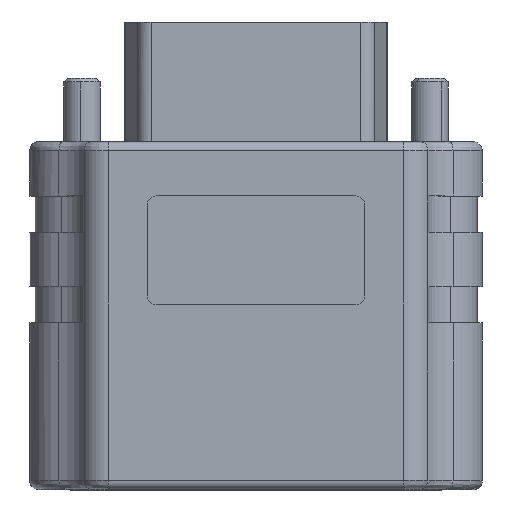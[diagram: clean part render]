
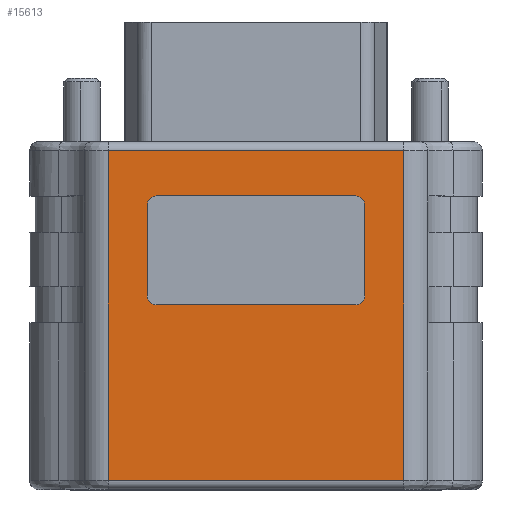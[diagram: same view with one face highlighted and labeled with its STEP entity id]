
A CAD part, top view. The second image highlights one B-rep face of the part: STEP entity #15613.
In plain terms, the highlighted planar face has unit normal (0, 0, 1) as drawn and (0, 1, 0) by its records, which use the part's own axes.
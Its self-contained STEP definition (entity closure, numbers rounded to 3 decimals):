
#38 = VERTEX_POINT ( 'NONE', #22051 ) ;
#1006 = LINE ( 'NONE', #22588, #26592 ) ;
#1810 = VECTOR ( 'NONE', #21243, 1000. ) ;
#2084 = VERTEX_POINT ( 'NONE', #32134 ) ;
#2915 = EDGE_CURVE ( 'NONE', #31202, #2084, #30771, .T. ) ;
#3042 = CARTESIAN_POINT ( 'NONE',  ( 8.15, 4.75, 0. ) ) ;
#3615 = CARTESIAN_POINT ( 'NONE',  ( -6., 4.75, 3.5 ) ) ;
#3661 = CARTESIAN_POINT ( 'NONE',  ( -5.5, 4.75, 3.5 ) ) ;
#3708 = VECTOR ( 'NONE', #12569, 1000. ) ;
#3722 = DIRECTION ( 'NONE',  ( 0., 0., -1. ) ) ;
#4386 = CARTESIAN_POINT ( 'NONE',  ( 6., 4.75, 3.5 ) ) ;
#4439 = ORIENTED_EDGE ( 'NONE', *, *, #20915, .T. ) ;
#4628 = ORIENTED_EDGE ( 'NONE', *, *, #29257, .T. ) ;
#4881 = CARTESIAN_POINT ( 'NONE',  ( -8.15, 4.75, 18.7 ) ) ;
#5003 = CARTESIAN_POINT ( 'NONE',  ( 8.15, 4.75, 0.5 ) ) ;
#5165 = FACE_BOUND ( 'NONE', #29551, .T. ) ;
#5195 = VECTOR ( 'NONE', #5562, 1000. ) ;
#5562 = DIRECTION ( 'NONE',  ( 0., 0., -1. ) ) ;
#5680 = DIRECTION ( 'NONE',  ( 0., 0., 1. ) ) ;
#6221 = ORIENTED_EDGE ( 'NONE', *, *, #7853, .T. ) ;
#6629 = VERTEX_POINT ( 'NONE', #12479 ) ;
#6707 = CARTESIAN_POINT ( 'NONE',  ( 5.5, 4.75, 8.5 ) ) ;
#6729 = VECTOR ( 'NONE', #28559, 1000. ) ;
#6767 = DIRECTION ( 'NONE',  ( 0., 0., -1. ) ) ;
#7299 = CARTESIAN_POINT ( 'NONE',  ( 8.15, 4.75, 0.5 ) ) ;
#7595 = DIRECTION ( 'NONE',  ( 0., -1., 0. ) ) ;
#7853 = EDGE_CURVE ( 'NONE', #2084, #24378, #22991, .T. ) ;
#7906 = LINE ( 'NONE', #24752, #18292 ) ;
#8040 = LINE ( 'NONE', #21722, #5195 ) ;
#8120 = CIRCLE ( 'NONE', #8692, 0.5 ) ;
#8692 = AXIS2_PLACEMENT_3D ( 'NONE', #24816, #29924, #3722 ) ;
#9589 = EDGE_CURVE ( 'NONE', #23491, #6629, #18336, .T. ) ;
#9665 = CARTESIAN_POINT ( 'NONE',  ( -6., 4.75, 8.5 ) ) ;
#9932 = LINE ( 'NONE', #20628, #6729 ) ;
#10016 = AXIS2_PLACEMENT_3D ( 'NONE', #6707, #7595, #13994 ) ;
#10268 = VERTEX_POINT ( 'NONE', #3615 ) ;
#10470 = DIRECTION ( 'NONE',  ( 0., 1., 0. ) ) ;
#10557 = CARTESIAN_POINT ( 'NONE',  ( -0.75, 4.75, 18.7 ) ) ;
#11314 = ORIENTED_EDGE ( 'NONE', *, *, #27451, .T. ) ;
#11395 = AXIS2_PLACEMENT_3D ( 'NONE', #33068, #19650, #21775 ) ;
#11954 = VERTEX_POINT ( 'NONE', #17877 ) ;
#12479 = CARTESIAN_POINT ( 'NONE',  ( -8.15, 4.75, 0.5 ) ) ;
#12569 = DIRECTION ( 'NONE',  ( 1., 0., 0. ) ) ;
#13653 = CARTESIAN_POINT ( 'NONE',  ( -5.5, 4.75, 9. ) ) ;
#13696 = ORIENTED_EDGE ( 'NONE', *, *, #32230, .T. ) ;
#13994 = DIRECTION ( 'NONE',  ( 0., 0., -1. ) ) ;
#14107 = ORIENTED_EDGE ( 'NONE', *, *, #22300, .T. ) ;
#15077 = VECTOR ( 'NONE', #33908, 1000. ) ;
#15385 = VECTOR ( 'NONE', #18000, 1000. ) ;
#15613 = ADVANCED_FACE ( 'NONE', ( #5165, #26646 ), #15862, .T. ) ;
#15862 = PLANE ( 'NONE',  #23919 ) ;
#15989 = EDGE_CURVE ( 'NONE', #10268, #38, #34078, .T. ) ;
#16279 = DIRECTION ( 'NONE',  ( 0., 0., 1. ) ) ;
#17522 = EDGE_CURVE ( 'NONE', #24378, #21963, #29358, .T. ) ;
#17877 = CARTESIAN_POINT ( 'NONE',  ( 8.15, 4.75, 18.7 ) ) ;
#18000 = DIRECTION ( 'NONE',  ( -1., 0., 0. ) ) ;
#18292 = VECTOR ( 'NONE', #16279, 1000. ) ;
#18336 = LINE ( 'NONE', #5003, #15385 ) ;
#18520 = LINE ( 'NONE', #26656, #3708 ) ;
#18730 = VERTEX_POINT ( 'NONE', #4881 ) ;
#18870 = AXIS2_PLACEMENT_3D ( 'NONE', #3661, #19639, #22461 ) ;
#19162 = ORIENTED_EDGE ( 'NONE', *, *, #26988, .T. ) ;
#19524 = ORIENTED_EDGE ( 'NONE', *, *, #9589, .T. ) ;
#19639 = DIRECTION ( 'NONE',  ( 0., -1., 0. ) ) ;
#19650 = DIRECTION ( 'NONE',  ( 0., -1., 0. ) ) ;
#20628 = CARTESIAN_POINT ( 'NONE',  ( -8.15, 4.75, 0. ) ) ;
#20671 = ORIENTED_EDGE ( 'NONE', *, *, #17522, .T. ) ;
#20915 = EDGE_CURVE ( 'NONE', #38, #33805, #18520, .T. ) ;
#21243 = DIRECTION ( 'NONE',  ( -1., 0., 0. ) ) ;
#21582 = ORIENTED_EDGE ( 'NONE', *, *, #2915, .T. ) ;
#21722 = CARTESIAN_POINT ( 'NONE',  ( -6., 4.75, 0. ) ) ;
#21775 = DIRECTION ( 'NONE',  ( 0., 0., -1. ) ) ;
#21963 = VERTEX_POINT ( 'NONE', #9665 ) ;
#22051 = CARTESIAN_POINT ( 'NONE',  ( -5.5, 4.75, 3. ) ) ;
#22300 = EDGE_CURVE ( 'NONE', #6629, #18730, #9932, .T. ) ;
#22461 = DIRECTION ( 'NONE',  ( 0., 0., -1. ) ) ;
#22588 = CARTESIAN_POINT ( 'NONE',  ( 8.15, 4.75, 0. ) ) ;
#22991 = LINE ( 'NONE', #33741, #15077 ) ;
#23491 = VERTEX_POINT ( 'NONE', #7299 ) ;
#23901 = LINE ( 'NONE', #10557, #1810 ) ;
#23919 = AXIS2_PLACEMENT_3D ( 'NONE', #3042, #10470, #5680 ) ;
#24378 = VERTEX_POINT ( 'NONE', #13653 ) ;
#24752 = CARTESIAN_POINT ( 'NONE',  ( 6., 4.75, 0. ) ) ;
#24816 = CARTESIAN_POINT ( 'NONE',  ( 5.5, 4.75, 3.5 ) ) ;
#25061 = ORIENTED_EDGE ( 'NONE', *, *, #15989, .T. ) ;
#25908 = CARTESIAN_POINT ( 'NONE',  ( 5.5, 4.75, 3. ) ) ;
#26592 = VECTOR ( 'NONE', #6767, 1000. ) ;
#26646 = FACE_OUTER_BOUND ( 'NONE', #32486, .T. ) ;
#26656 = CARTESIAN_POINT ( 'NONE',  ( 8.15, 4.75, 3. ) ) ;
#26811 = VERTEX_POINT ( 'NONE', #4386 ) ;
#26918 = EDGE_CURVE ( 'NONE', #11954, #18730, #23901, .T. ) ;
#26988 = EDGE_CURVE ( 'NONE', #11954, #23491, #1006, .T. ) ;
#27451 = EDGE_CURVE ( 'NONE', #21963, #10268, #8040, .T. ) ;
#28559 = DIRECTION ( 'NONE',  ( 0., 0., 1. ) ) ;
#29257 = EDGE_CURVE ( 'NONE', #33805, #26811, #8120, .T. ) ;
#29358 = CIRCLE ( 'NONE', #11395, 0.5 ) ;
#29551 = EDGE_LOOP ( 'NONE', ( #6221, #20671, #11314, #25061, #4439, #4628, #13696, #21582 ) ) ;
#29924 = DIRECTION ( 'NONE',  ( 0., -1., 0. ) ) ;
#30566 = CARTESIAN_POINT ( 'NONE',  ( 6., 4.75, 8.5 ) ) ;
#30771 = CIRCLE ( 'NONE', #10016, 0.5 ) ;
#31202 = VERTEX_POINT ( 'NONE', #30566 ) ;
#32134 = CARTESIAN_POINT ( 'NONE',  ( 5.5, 4.75, 9. ) ) ;
#32230 = EDGE_CURVE ( 'NONE', #26811, #31202, #7906, .T. ) ;
#32486 = EDGE_LOOP ( 'NONE', ( #19524, #14107, #33281, #19162 ) ) ;
#33068 = CARTESIAN_POINT ( 'NONE',  ( -5.5, 4.75, 8.5 ) ) ;
#33281 = ORIENTED_EDGE ( 'NONE', *, *, #26918, .F. ) ;
#33741 = CARTESIAN_POINT ( 'NONE',  ( 8.15, 4.75, 9. ) ) ;
#33805 = VERTEX_POINT ( 'NONE', #25908 ) ;
#33908 = DIRECTION ( 'NONE',  ( -1., 0., 0. ) ) ;
#34078 = CIRCLE ( 'NONE', #18870, 0.5 ) ;
